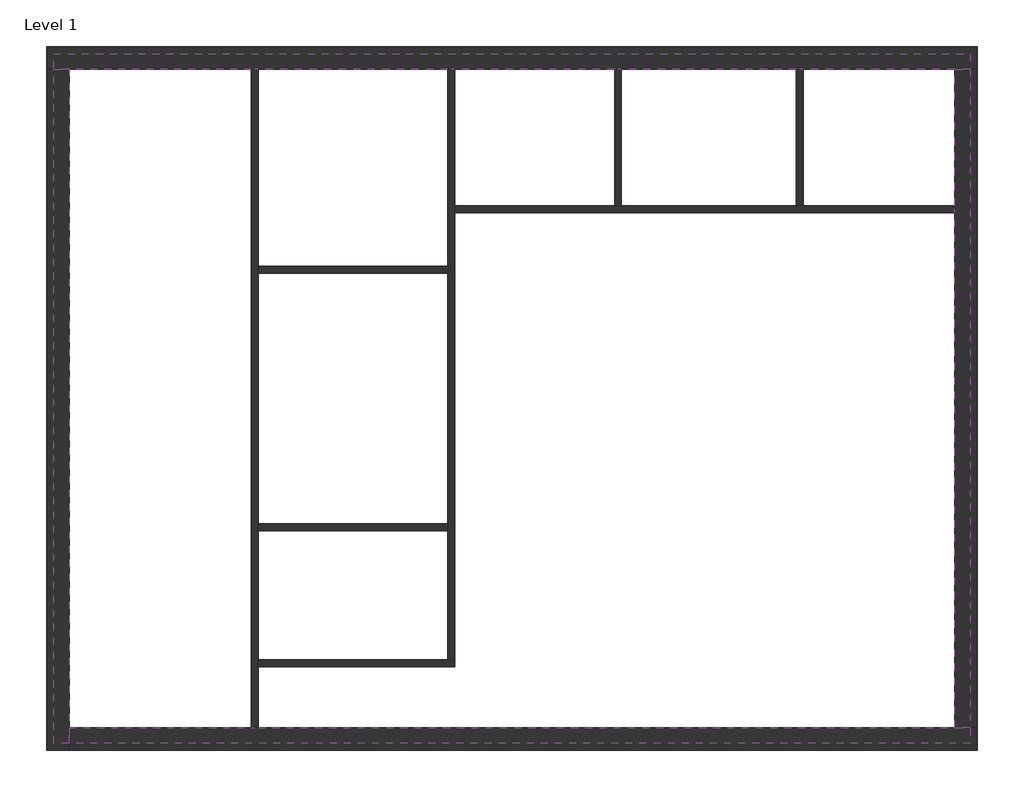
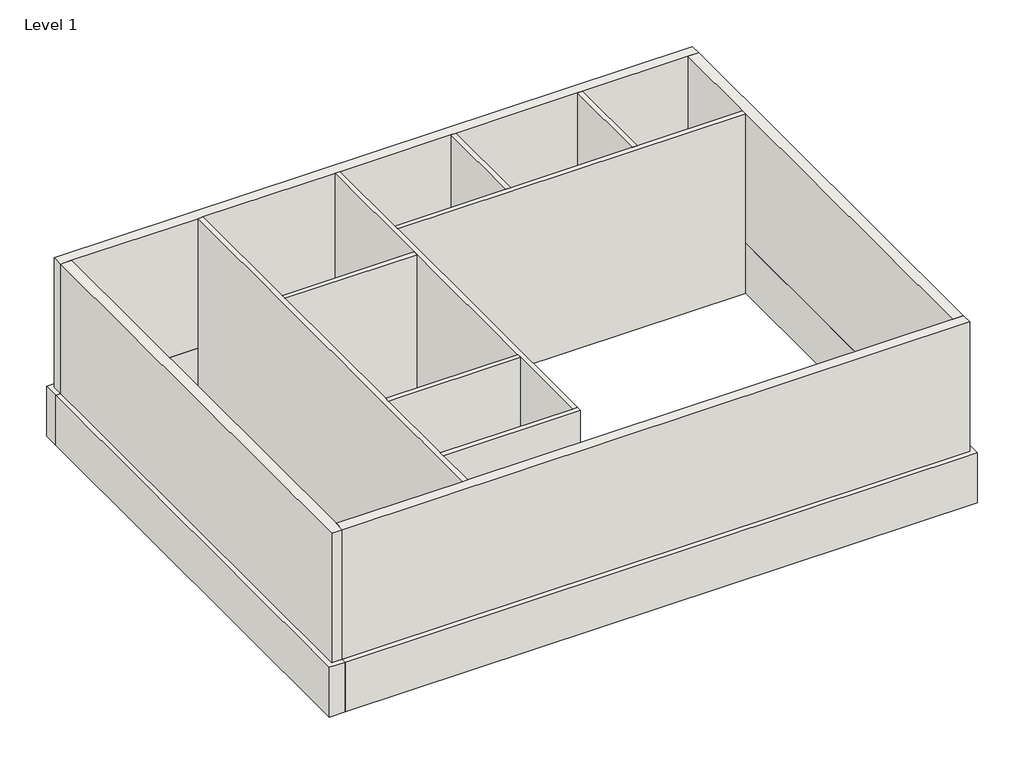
# One storey: 16 walls.
"""IFC4 building model written with IfcOpenShell, lengths in millimetres."""

from ifc_helpers import new_model, si_unit, origin, origin_with_axes, place, context, project, spatial, polyline, outline, extrude, faceted_brep, element, save

model = new_model("IFC4")

# Units and contexts
model_context = context("Model", 3, world=origin())
ifc_project = project(units=[si_unit("LENGTHUNIT", "METRE", prefix="MILLI")], contexts=[model_context])

# Site, building, storey
site = spatial("IfcSite", under=ifc_project)
building = spatial("IfcBuilding", under=site)
storey = spatial("IfcBuildingStorey", under=building, Name="Level 1", Elevation=0.0)

# Walls
placement = place(None, origin())
element("IfcWall", 1, ObjectType="Exterior - CMU on Mtl. Stud", at=placement, inside=storey, context=model_context, shape_type="Brep", body=[
    faceted_brep([(-11070.2353216, 3245.2059849, 0.0), (-10616.2103216, 3245.2059849, 0.0), (-6950.6728216, 3245.2059849, 0.0), (-6810.9728216, 3245.2059849, 0.0), (-2988.2728216, 3245.2059849, 0.0), (-2848.5728216, 3245.2059849, 0.0), (364.5271784, 3245.2059849, 0.0), (504.2271784, 3245.2059849, 0.0), (4022.1271784, 3245.2059849, 0.0), (4161.8271784, 3245.2059849, 0.0), (7217.7646784, 3245.2059849, 0.0), (7671.7896784, 3245.2059849, 0.0), (7671.7896784, 3245.2059849, 1524.0), (7528.9146784, 3245.2059849, 1524.0), (7217.7646784, 3245.2059849, 1524.0), (-10616.2103216, 3245.2059849, 1524.0), (-10927.3603216, 3245.2059849, 1524.0), (-11070.2353216, 3245.2059849, 1524.0), (-11070.2353216, 3699.2309849, 0.0), (-11070.2353216, 3699.2309849, 1524.0), (7671.7896784, 3699.2309849, 1524.0), (7671.7896784, 3699.2309849, 0.0)], [[[0, 1, 2, 3, 4, 5, 6, 7, 8, 9, 10, 11, 12, 13, 14, 15, 16, 17]], [[18, 19, 20, 21]], [[11, 10, 9, 8, 7, 6, 5, 4, 3, 2, 1, 0, 18, 21]], [[17, 16, 15, 14, 13, 12, 20, 19]], [[0, 17, 19, 18]], [[12, 11, 21, 20]]]),
])
element("IfcWall", 2, ObjectType="Exterior - CMU on Mtl. Stud", at=placement, inside=storey, context=model_context, shape_type="Brep", body=[
    faceted_brep([(-10616.2103216, -10470.7940151, 0.0), (-10616.2103216, -10016.7690151, 0.0), (-10616.2103216, 3245.2059849, 0.0), (-10616.2103216, 3245.2059849, 1524.0), (-10616.2103216, -10016.7690151, 1524.0), (-10616.2103216, -10327.9190151, 1524.0), (-10616.2103216, -10470.7940151, 1524.0), (-11070.2353216, -10470.7940151, 0.0), (-11070.2353216, -10470.7940151, 1524.0), (-11070.2353216, 3245.2059849, 1524.0), (-11070.2353216, 3245.2059849, 0.0), (-10927.3603216, 3245.2059849, 1524.0)], [[[0, 1, 2, 3, 4, 5, 6]], [[7, 8, 9, 10]], [[2, 1, 0, 7, 10]], [[6, 5, 4, 3, 11, 9, 8]], [[0, 6, 8, 7]], [[3, 2, 10, 9, 11]]]),
])
element("IfcWall", 3, ObjectType="Exterior - CMU on Mtl. Stud", at=placement, inside=storey, context=model_context, shape_type="Brep", body=[
    faceted_brep([(7671.7896784, -10016.7690151, 0.0), (7217.7646784, -10016.7690151, 0.0), (-6810.9728216, -10016.7690151, 0.0), (-6950.6728216, -10016.7690151, 0.0), (-10616.2103216, -10016.7690151, 0.0), (-10616.2103216, -10016.7690151, 1524.0), (7217.7646784, -10016.7690151, 1524.0), (7528.9146784, -10016.7690151, 1524.0), (7671.7896784, -10016.7690151, 1524.0), (7671.7896784, -10470.7940151, 0.0), (7671.7896784, -10470.7940151, 1524.0), (-10616.2103216, -10470.7940151, 1524.0), (-10616.2103216, -10470.7940151, 0.0), (-10616.2103216, -10327.9190151, 1524.0)], [[[0, 1, 2, 3, 4, 5, 6, 7, 8]], [[9, 10, 11, 12]], [[4, 3, 2, 1, 0, 9, 12]], [[8, 7, 6, 5, 13, 11, 10]], [[0, 8, 10, 9]], [[5, 4, 12, 11, 13]]]),
])
element("IfcWall", 4, ObjectType="Exterior - CMU on Mtl. Stud", at=placement, inside=storey, context=model_context, shape_type="Brep", body=[
    faceted_brep([(7217.7646784, 3245.2059849, 0.0), (7217.7646784, 494.0684849, 0.0), (7217.7646784, 354.3684849, 0.0), (7217.7646784, -10016.7690151, 0.0), (7217.7646784, -10016.7690151, 1524.0), (7217.7646784, 3245.2059849, 1524.0), (7671.7896784, 3245.2059849, 0.0), (7671.7896784, 3245.2059849, 1524.0), (7671.7896784, -10016.7690151, 1524.0), (7671.7896784, -10016.7690151, 0.0), (7528.9146784, -10016.7690151, 1524.0), (7528.9146784, 3245.2059849, 1524.0)], [[[0, 1, 2, 3, 4, 5]], [[6, 7, 8, 9]], [[3, 2, 1, 0, 6, 9]], [[5, 4, 10, 8, 7, 11]], [[0, 5, 11, 7, 6]], [[4, 3, 9, 8, 10]]]),
])
element("IfcWall", 5, ObjectType="Exterior - EIFS on Mtl. Stud", at=placement, inside=storey, context=model_context, shape_type="Brep", body=[
    faceted_brep([(-10927.3603216, 3245.2059849, 1524.0), (-10616.2103216, 3245.2059849, 1524.0), (7217.7646784, 3245.2059849, 1524.0), (7528.9146784, 3245.2059849, 1524.0), (7528.9146784, 3245.2059849, 5486.4), (7217.7646784, 3245.2059849, 5486.4), (4161.8271784, 3245.2059849, 5486.4), (4022.1271784, 3245.2059849, 5486.4), (504.2271784, 3245.2059849, 5486.4), (364.5271784, 3245.2059849, 5486.4), (-2848.5728216, 3245.2059849, 5486.4), (-2988.2728216, 3245.2059849, 5486.4), (-6810.9728216, 3245.2059849, 5486.4), (-6950.6728216, 3245.2059849, 5486.4), (-10616.2103216, 3245.2059849, 5486.4), (-10927.3603216, 3245.2059849, 5486.4), (-10927.3603216, 3556.3559849, 1524.0), (-10927.3603216, 3556.3559849, 5486.4), (7528.9146784, 3556.3559849, 5486.4), (7528.9146784, 3556.3559849, 1524.0)], [[[0, 1, 2, 3, 4, 5, 6, 7, 8, 9, 10, 11, 12, 13, 14, 15]], [[16, 17, 18, 19]], [[3, 2, 1, 0, 16, 19]], [[15, 14, 13, 12, 11, 10, 9, 8, 7, 6, 5, 4, 18, 17]], [[0, 15, 17, 16]], [[4, 3, 19, 18]]]),
])
element("IfcWall", 6, ObjectType="Exterior - EIFS on Mtl. Stud", at=placement, inside=storey, context=model_context, shape_type="Brep", body=[
    faceted_brep([(-10616.2103216, -10327.9190151, 1524.0), (-10616.2103216, -10016.7690151, 1524.0), (-10616.2103216, 3245.2059849, 1524.0), (-10616.2103216, 3245.2059849, 5486.4), (-10616.2103216, -10016.7690151, 5486.4), (-10616.2103216, -10327.9190151, 5486.4), (-10927.3603216, -10327.9190151, 1524.0), (-10927.3603216, -10327.9190151, 5486.4), (-10927.3603216, 3245.2059849, 5486.4), (-10927.3603216, 3245.2059849, 1524.0)], [[[0, 1, 2, 3, 4, 5]], [[6, 7, 8, 9]], [[2, 1, 0, 6, 9]], [[5, 4, 3, 8, 7]], [[0, 5, 7, 6]], [[3, 2, 9, 8]]]),
])
element("IfcWall", 7, ObjectType="Exterior - EIFS on Mtl. Stud", at=placement, inside=storey, context=model_context, shape_type="Brep", body=[
    faceted_brep([(7528.9146784, -10016.7690151, 1524.0), (7217.7646784, -10016.7690151, 1524.0), (-10616.2103216, -10016.7690151, 1524.0), (-10616.2103216, -10016.7690151, 5486.4), (-6950.6728216, -10016.7690151, 5486.4), (-6810.9728216, -10016.7690151, 5486.4), (7217.7646784, -10016.7690151, 5486.4), (7528.9146784, -10016.7690151, 5486.4), (7528.9146784, -10327.9190151, 1524.0), (7528.9146784, -10327.9190151, 5486.4), (-10616.2103216, -10327.9190151, 5486.4), (-10616.2103216, -10327.9190151, 1524.0)], [[[0, 1, 2, 3, 4, 5, 6, 7]], [[8, 9, 10, 11]], [[2, 1, 0, 8, 11]], [[7, 6, 5, 4, 3, 10, 9]], [[0, 7, 9, 8]], [[3, 2, 11, 10]]]),
])
element("IfcWall", 8, ObjectType="Exterior - EIFS on Mtl. Stud", at=placement, inside=storey, context=model_context, shape_type="Brep", body=[
    faceted_brep([(7217.7646784, 3245.2059849, 1524.0), (7217.7646784, -10016.7690151, 1524.0), (7217.7646784, -10016.7690151, 5486.4), (7217.7646784, 354.3684849, 5486.4), (7217.7646784, 494.0684849, 5486.4), (7217.7646784, 3245.2059849, 5486.4), (7528.9146784, 3245.2059849, 1524.0), (7528.9146784, 3245.2059849, 5486.4), (7528.9146784, -10016.7690151, 5486.4), (7528.9146784, -10016.7690151, 1524.0)], [[[0, 1, 2, 3, 4, 5]], [[6, 7, 8, 9]], [[1, 0, 6, 9]], [[5, 4, 3, 2, 8, 7]], [[0, 5, 7, 6]], [[2, 1, 9, 8]]]),
])
element("IfcWall", 9, ObjectType="Interior - 5 1/2\" Partition (1-hr)", at=placement, inside=storey, context=model_context, shape_type="Brep", body=[
    faceted_brep([(-6950.6728216, 3245.2059849, 5486.4), (-6950.6728216, 3245.2059849, 0.0), (-6950.6728216, -10016.7690151, 0.0), (-6950.6728216, -10016.7690151, 5486.4), (-6810.9728216, 3245.2059849, 0.0), (-6810.9728216, 3245.2059849, 5486.4), (-6810.9728216, -725.1315151, 5486.4), (-6810.9728216, -864.8315151, 5486.4), (-6810.9728216, -5906.7315151, 5486.4), (-6810.9728216, -6046.4315151, 5486.4), (-6810.9728216, -8649.9315151, 5486.4), (-6810.9728216, -8789.6315151, 5486.4), (-6810.9728216, -10016.7690151, 5486.4), (-6810.9728216, -10016.7690151, 0.0), (-6810.9728216, -8789.6315151, 0.0), (-6810.9728216, -8649.9315151, 0.0), (-6810.9728216, -6046.4315151, 0.0), (-6810.9728216, -5906.7315151, 0.0), (-6810.9728216, -864.8315151, 0.0), (-6810.9728216, -725.1315151, 0.0)], [[[0, 1, 2, 3]], [[4, 5, 6, 7, 8, 9, 10, 11, 12, 13, 14, 15, 16, 17, 18, 19]], [[2, 1, 4, 19, 18, 17, 16, 15, 14, 13]], [[0, 3, 12, 11, 10, 9, 8, 7, 6, 5]], [[0, 5, 4, 1]], [[2, 13, 12, 3]]]),
])
element("IfcWall", 10, ObjectType="Interior - 5 1/2\" Partition (1-hr)", at=placement, inside=storey, context=model_context, shape_type="Brep", body=[
    faceted_brep([(-6810.9728216, -8789.6315151, 0.0), (-2848.5728216, -8789.6315151, 0.0), (-2848.5728216, -8789.6315151, 5486.4), (-6810.9728216, -8789.6315151, 5486.4), (-6810.9728216, -8649.9315151, 0.0), (-6810.9728216, -8649.9315151, 5486.4), (-2988.2728216, -8649.9315151, 5486.4), (-2848.5728216, -8649.9315151, 5486.4), (-2848.5728216, -8649.9315151, 0.0), (-2988.2728216, -8649.9315151, 0.0)], [[[0, 1, 2, 3]], [[4, 5, 6, 7, 8, 9]], [[1, 0, 4, 9, 8]], [[3, 2, 7, 6, 5]], [[0, 3, 5, 4]], [[2, 1, 8, 7]]]),
])
element("IfcWall", 11, ObjectType="Interior - 5 1/2\" Partition (1-hr)", at=placement, inside=storey, context=model_context, shape_type="Brep", body=[
    faceted_brep([(-2848.5728216, -8649.9315151, 0.0), (-2848.5728216, 354.3684849, 0.0), (-2848.5728216, 494.0684849, 0.0), (-2848.5728216, 3245.2059849, 0.0), (-2848.5728216, 3245.2059849, 5486.4), (-2848.5728216, 494.0684849, 5486.4), (-2848.5728216, 354.3684849, 5486.4), (-2848.5728216, -8649.9315151, 5486.4), (-2988.2728216, -8649.9315151, 0.0), (-2988.2728216, -8649.9315151, 5486.4), (-2988.2728216, -6046.4315151, 5486.4), (-2988.2728216, -5906.7315151, 5486.4), (-2988.2728216, -864.8315151, 5486.4), (-2988.2728216, -725.1315151, 5486.4), (-2988.2728216, 3245.2059849, 5486.4), (-2988.2728216, 3245.2059849, 0.0), (-2988.2728216, -725.1315151, 0.0), (-2988.2728216, -864.8315151, 0.0), (-2988.2728216, -5906.7315151, 0.0), (-2988.2728216, -6046.4315151, 0.0)], [[[0, 1, 2, 3, 4, 5, 6, 7]], [[8, 9, 10, 11, 12, 13, 14, 15, 16, 17, 18, 19]], [[3, 2, 1, 0, 8, 19, 18, 17, 16, 15]], [[7, 6, 5, 4, 14, 13, 12, 11, 10, 9]], [[0, 7, 9, 8]], [[3, 15, 14, 4]]]),
])
element("IfcWall", 12, ObjectType="Interior - 5 1/2\" Partition (1-hr)", at=placement, inside=storey, context=model_context, shape_type="Brep", body=[
    faceted_brep([(7217.7646784, 494.0684849, 5486.4), (7217.7646784, 494.0684849, 0.0), (4161.8271784, 494.0684849, 0.0), (4022.1271784, 494.0684849, 0.0), (504.2271784, 494.0684849, 0.0), (364.5271784, 494.0684849, 0.0), (-2848.5728216, 494.0684849, 0.0), (-2848.5728216, 494.0684849, 5486.4), (364.5271784, 494.0684849, 5486.4), (504.2271784, 494.0684849, 5486.4), (4022.1271784, 494.0684849, 5486.4), (4161.8271784, 494.0684849, 5486.4), (7217.7646784, 354.3684849, 0.0), (7217.7646784, 354.3684849, 5486.4), (-2848.5728216, 354.3684849, 5486.4), (-2848.5728216, 354.3684849, 0.0)], [[[0, 1, 2, 3, 4, 5, 6, 7, 8, 9, 10, 11]], [[12, 13, 14, 15]], [[6, 5, 4, 3, 2, 1, 12, 15]], [[0, 11, 10, 9, 8, 7, 14, 13]], [[0, 13, 12, 1]], [[7, 6, 15, 14]]]),
])
element("IfcWall", 13, ObjectType="Interior - 5 1/2\" Partition (1-hr)", at=placement, inside=storey, context=model_context, shape_type="SweptSolid", body=[
    extrude(outline(polyline([(364.5271784, 494.0684849), (364.5271784, 3245.2059849), (504.2271784, 3245.2059849), (504.2271784, 494.0684849), (364.5271784, 494.0684849)])), origin_with_axes(), (0.0, 0.0, 1.0), 5486.4),
])
element("IfcWall", 14, ObjectType="Interior - 5 1/2\" Partition (1-hr)", at=placement, inside=storey, context=model_context, shape_type="SweptSolid", body=[
    extrude(outline(polyline([(4022.1271784, 494.0684849), (4022.1271784, 3245.2059849), (4161.8271784, 3245.2059849), (4161.8271784, 494.0684849), (4022.1271784, 494.0684849)])), origin_with_axes(), (0.0, 0.0, 1.0), 5486.4),
])
element("IfcWall", 15, ObjectType="Interior - 5 1/2\" Partition (1-hr)", at=placement, inside=storey, context=model_context, shape_type="SweptSolid", body=[
    extrude(outline(polyline([(-2988.2728216, -864.8315151), (-6810.9728216, -864.8315151), (-6810.9728216, -725.1315151), (-2988.2728216, -725.1315151), (-2988.2728216, -864.8315151)])), origin_with_axes(), (0.0, 0.0, 1.0), 5486.4),
])
element("IfcWall", 16, ObjectType="Interior - 5 1/2\" Partition (1-hr)", at=placement, inside=storey, context=model_context, shape_type="SweptSolid", body=[
    extrude(outline(polyline([(-2988.2728216, -6046.4315151), (-6810.9728216, -6046.4315151), (-6810.9728216, -5906.7315151), (-2988.2728216, -5906.7315151), (-2988.2728216, -6046.4315151)])), origin_with_axes(), (0.0, 0.0, 1.0), 5486.4),
])

save(model, "model.ifc")
